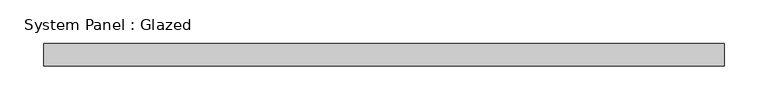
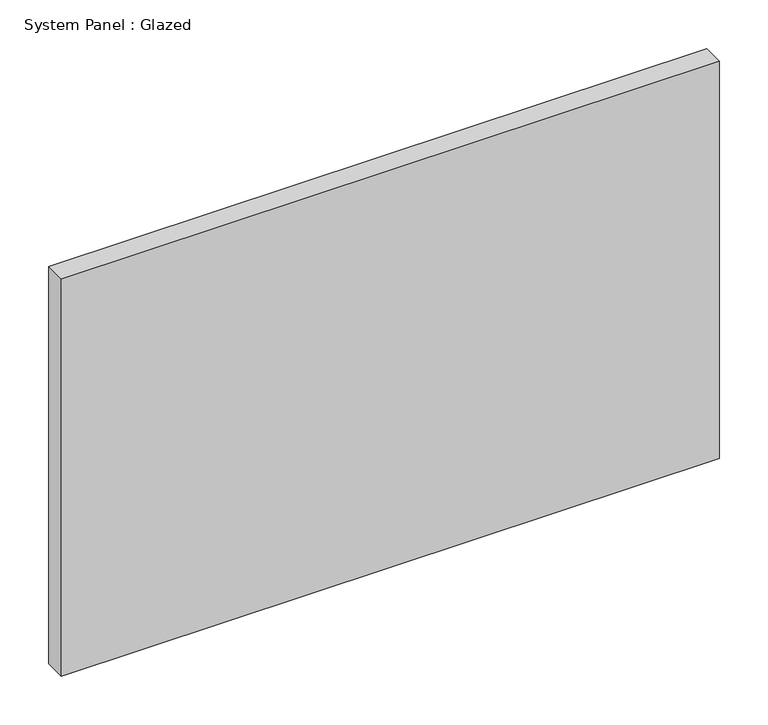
"""IFC4 building model written with IfcOpenShell, lengths in millimetres: plate geometry, System Panel : Glazed."""

import ifcopenshell
import ifcopenshell.guid

model = None  # the IFC model being written
_history = None  # IfcOwnerHistory: only IFC2X3 demands one
_inside = {}  # id of a spatial element -> (the spatial element, [elements in it])
_under = {}  # id of a project, library or spatial element -> (it, [spatial elements below it])
_declared = {}  # id of a project -> (the project, [libraries it declares])
_typed = {}  # id of a type object -> (the type object, [elements of that type])
_made_of = {}  # id of a material, layer set ... -> (it, [elements and type objects made of it])


def new_model(schema):
    """Start an empty IFC model of exactly this schema.

    Asked for "IFC4X3", IfcOpenShell would pick the latest addendum, in which some entities
    have other attributes; the version numbers below select the first issue.
    IFC2X3 requires an IfcOwnerHistory on every rooted entity: one is made here for all.
    """
    global model, _history
    if schema == "IFC4X3":
        model = ifcopenshell.file(schema_version=(4, 3, 0, 0))
    else:
        model = ifcopenshell.file(schema=schema)
    _inside.clear()
    _under.clear()
    _declared.clear()
    _typed.clear()
    _made_of.clear()
    _history = None
    if model.schema == "IFC2X3":
        org = make("IfcOrganization", Name="unknown")
        user = make(
            "IfcPersonAndOrganization",
            ThePerson=make("IfcPerson", FamilyName="unknown"),
            TheOrganization=org,
        )
        app = make(
            "IfcApplication",
            ApplicationDeveloper=org,
            Version="unknown",
            ApplicationFullName="unknown",
            ApplicationIdentifier="unknown",
        )
        _history = make(
            "IfcOwnerHistory",
            OwningUser=user,
            OwningApplication=app,
            ChangeAction="ADDED",
            CreationDate=0,
        )
    return model


def make(cls, **values):
    """One entity of the class cls with the attributes given. An attribute that is None is left unset."""
    return model.create_entity(
        cls, **{name: value for name, value in values.items() if value is not None}
    )


def rooted(cls, **values):
    """An entity with a GlobalId (a new one), such as an element, a storey or a relation."""
    return make(cls, GlobalId=ifcopenshell.guid.new(), OwnerHistory=_history, **values)


def si_unit(unit_type, name, prefix=None):
    """IfcSIUnit, for example si_unit("LENGTHUNIT", "METRE", prefix="MILLI")."""
    return make("IfcSIUnit", UnitType=unit_type, Prefix=prefix, Name=name)


def assignment(units):
    """IfcUnitAssignment: the units of a project."""
    return None if units is None else make("IfcUnitAssignment", Units=units)


def point(xyz):
    """IfcCartesianPoint."""
    return None if xyz is None else make("IfcCartesianPoint", Coordinates=xyz)


def direction(xyz):
    """IfcDirection."""
    return None if xyz is None else make("IfcDirection", DirectionRatios=xyz)


def frame(location, z_axis=None, x_axis=None):
    """IfcAxis2Placement3D, a coordinate frame: its origin and axes. An axis left out is left unset."""
    return make(
        "IfcAxis2Placement3D",
        Location=point(location),
        Axis=direction(z_axis),
        RefDirection=direction(x_axis),
    )


def origin():
    """The frame at (0, 0, 0) with its axes left unset."""
    return frame((0.0, 0.0, 0.0))


def origin_with_axes():
    """The frame at (0, 0, 0) with the z axis (0, 0, 1) and the x axis (1, 0, 0) written out."""
    return frame((0.0, 0.0, 0.0), z_axis=(0.0, 0.0, 1.0), x_axis=(1.0, 0.0, 0.0))


def place(relative_to, where):
    """IfcLocalPlacement: puts the frame where relative to a parent placement (None: the world)."""
    return make(
        "IfcLocalPlacement", PlacementRelTo=relative_to, RelativePlacement=where
    )


def context(
    kind, dimensions, precision=None, world=None, true_north=None, identifier=None
):
    """IfcGeometricRepresentationContext, for example the 3D "Model" context."""
    return make(
        "IfcGeometricRepresentationContext",
        ContextIdentifier=identifier,
        ContextType=kind,
        CoordinateSpaceDimension=dimensions,
        Precision=precision,
        WorldCoordinateSystem=world,
        TrueNorth=true_north,
    )


def project(units=None, contexts=None):
    """IfcProject with its units and contexts."""
    return rooted(
        "IfcProject",
        Name="project",
        RepresentationContexts=contexts,
        UnitsInContext=assignment(units),
    )


def spatial(cls, under=None, at=None, **own):
    """A site, building, storey or space (cls), placed at a placement, below another one or the project."""
    s = rooted(cls, ObjectPlacement=at, **own)
    if under is not None:
        _under.setdefault(under.id(), (under, []))[1].append(s)
    return s


def polyline(points):
    """IfcPolyline through the points."""
    return make("IfcPolyline", Points=[point(p) for p in points])


def outline(outer, holes=None, kind="AREA"):
    """IfcArbitraryClosedProfileDef: a profile drawn as a closed curve; with holes, ...WithVoids."""
    if holes is None:
        return make("IfcArbitraryClosedProfileDef", ProfileType=kind, OuterCurve=outer)
    return make(
        "IfcArbitraryProfileDefWithVoids",
        ProfileType=kind,
        OuterCurve=outer,
        InnerCurves=holes,
    )


def extrude(swept, where, along, depth):
    """IfcExtrudedAreaSolid: the profile swept, set in the frame where, extruded along a direction by depth."""
    return make(
        "IfcExtrudedAreaSolid",
        SweptArea=swept,
        Position=where,
        ExtrudedDirection=direction(along),
        Depth=depth,
    )


def shape(context_of_items, identifier, shape_type, items):
    """IfcShapeRepresentation: the items that make up one representation, for example the "Body"."""
    return make(
        "IfcShapeRepresentation",
        ContextOfItems=context_of_items,
        RepresentationIdentifier=identifier,
        RepresentationType=shape_type,
        Items=items,
    )


def source(mapping_origin, context_of_items, identifier, shape_type, items):
    """IfcRepresentationMap: a shape defined once, which mapped items show again and again."""
    return make(
        "IfcRepresentationMap",
        MappingOrigin=mapping_origin,
        MappedRepresentation=shape(context_of_items, identifier, shape_type, items),
    )


def transform(
    local_origin,
    x_axis=None,
    y_axis=None,
    z_axis=None,
    scale=None,
    scale2=None,
    scale3=None,
    uniform=True,
):
    """IfcCartesianTransformationOperator3D, or its non-uniform kind. x_axis, y_axis, z_axis: its Axis1, 2, 3."""
    if uniform:
        return make(
            "IfcCartesianTransformationOperator3D",
            Axis1=direction(x_axis),
            Axis2=direction(y_axis),
            LocalOrigin=point(local_origin),
            Scale=scale,
            Axis3=direction(z_axis),
        )
    return make(
        "IfcCartesianTransformationOperator3DnonUniform",
        Axis1=direction(x_axis),
        Axis2=direction(y_axis),
        LocalOrigin=point(local_origin),
        Scale=scale,
        Axis3=direction(z_axis),
        Scale2=scale2,
        Scale3=scale3,
    )


def mapped(mapping_source, mapping_target):
    """IfcMappedItem: shows the shape of a source again, moved by a transform."""
    return make(
        "IfcMappedItem", MappingSource=mapping_source, MappingTarget=mapping_target
    )


def made_of(thing, what):
    """Note that an element or type object is made of a material, layer set ...; save() writes the relation."""
    if what is not None:
        _made_of.setdefault(what.id(), (what, []))[1].append(thing)
    return thing


def element(
    cls,
    number,
    at=None,
    inside=None,
    cuts=None,
    type_object=None,
    material=None,
    context=None,
    identifier="Body",
    shape_type=None,
    held_by="IfcProductDefinitionShape",
    body=None,
    shapes=None,
    **own,
):
    """One element of the class cls, such as IfcWall. Its Tag is "e" and its number.

    at: its placement. inside: the storey or other place that contains it. cuts: it is an
    opening in that element (IfcRelVoidsElement). A single representation is given by context,
    identifier, shape_type and body (its items); several are given by shapes. held_by: the class
    of the entity that holds the representations. save() writes the other relations.
    """
    e = rooted(cls, Tag="e%d" % number, ObjectPlacement=at, **own)
    if body is not None:
        shapes = [shape(context, identifier, shape_type, body)]
    if shapes is not None:
        e.Representation = make(held_by, Representations=shapes)
    if inside is not None:
        _inside.setdefault(inside.id(), (inside, []))[1].append(e)
    if cuts is not None:
        rooted(
            "IfcRelVoidsElement", RelatingBuildingElement=cuts, RelatedOpeningElement=e
        )
    if type_object is not None:
        _typed.setdefault(type_object.id(), (type_object, []))[1].append(e)
    return made_of(e, material)


def aggregate(whole, parts):
    """IfcRelAggregates: a whole, such as a stair, and the parts it consists of."""
    return rooted("IfcRelAggregates", RelatingObject=whole, RelatedObjects=parts)


def save(model, path):
    """Write the relations noted so far, then the file.

    IfcRelAggregates (storeys below a building ...), IfcRelContainedInSpatialStructure (elements
    in a storey), IfcRelDefinesByType, IfcRelAssociatesMaterial and IfcRelDeclares: one each for
    every whole, place, type object, material and project.
    """
    for whole, parts in _under.values():
        aggregate(whole, parts)
    for where, things in _inside.values():
        rooted(
            "IfcRelContainedInSpatialStructure",
            RelatedElements=things,
            RelatingStructure=where,
        )
    for kind, things in _typed.values():
        rooted("IfcRelDefinesByType", RelatedObjects=things, RelatingType=kind)
    for what, things in _made_of.values():
        rooted("IfcRelAssociatesMaterial", RelatedObjects=things, RelatingMaterial=what)
    for by, libraries in _declared.values():
        rooted("IfcRelDeclares", RelatingContext=by, RelatedDefinitions=libraries)
    model.write(path)


def system_panel_glazed_604e821d(model_context):
    return source(origin(), model_context, "Body", "SweptSolid", [
        extrude(outline(polyline([(387.6296893, -12.7), (-387.6296893, -12.7), (-387.6296893, 12.7), (387.6296893, 12.7), (387.6296893, -12.7)])), origin_with_axes(), (0.0, 0.0, 1.0), 495.3),
    ])


if __name__ == "__main__":
    model = new_model("IFC4")
    model_context = context("Model", 3, world=origin())
    ifc_project = project(units=[si_unit("LENGTHUNIT", "METRE", prefix="MILLI")], contexts=[model_context])
    site = spatial("IfcSite", under=ifc_project)
    building = spatial("IfcBuilding", under=site)
    placement = place(None, origin())
    system_panel_glazed_shape = system_panel_glazed_604e821d(model_context)
    element("IfcPlate", 1, ObjectType="System Panel : Glazed", at=placement, inside=building, context=model_context, shape_type="MappedRepresentation", body=[
        mapped(system_panel_glazed_shape, transform((0.0, 0.0, 0.0), x_axis=(1.0, 0.0, 0.0), y_axis=(0.0, 1.0, 0.0), z_axis=(0.0, 0.0, 1.0))),
    ])
    save(model, "model.ifc")
